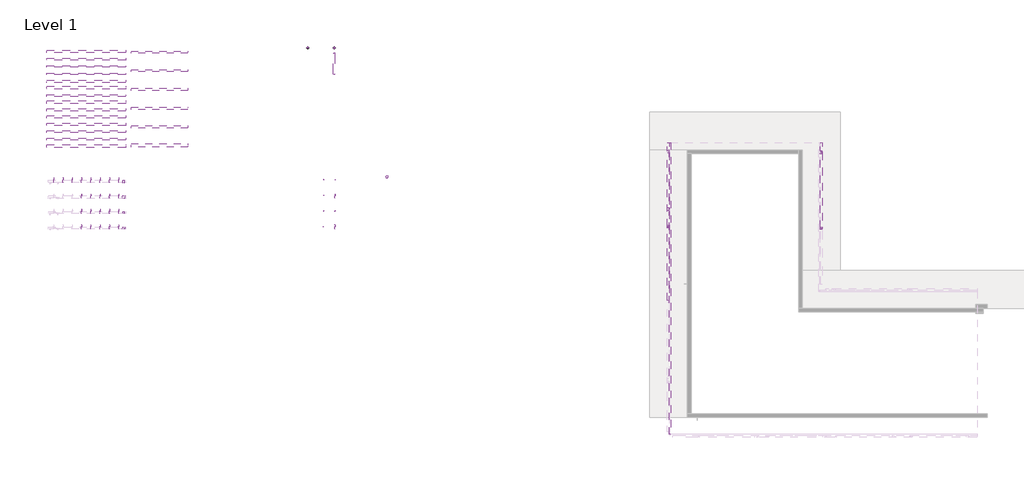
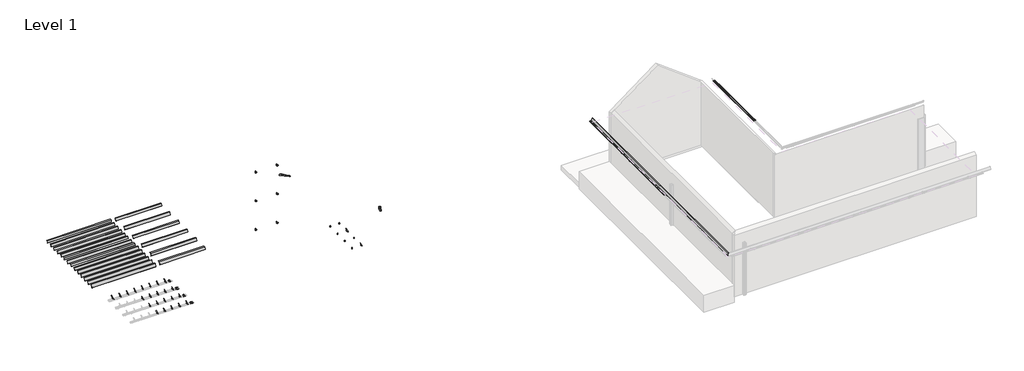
# One storey, part 2 of 2: 98 proxies.
"""IFC4 building model written with IfcOpenShell, lengths in millimetres."""

from ifc_helpers import new_model, si_unit, origin, place, context, project, spatial, transform, mapped, element, save
from components import generic_models_d0b2a56a, alignment_bracket_76c64be8, b_205_cd1249d6, b_205_a_120mm_6110ca3e, b_205_a_140mm_1e984a72, b_205_a_150mm_b27aad1a, b_205_a_160mm_fea3069e, b_205_a_160mm_67778573, b_220_5980a5c1, b_220_a_120mm_c45b3949, b_220_a_160mm_a982867b, b_236_e60926e6, b_236_a_120mm_6d98eb93, b_236_a_160mm_9b05f503, b_247_9f91e7f2, b_247_a_170mm_14fe877a, b_250_ef0d3f13, b_250_a_170mm_6450933a, b_250_a_180mm_6712f201, b_250_a_200mm_5dbeaa59, b_290_bcbdf5cb, b_290_a_200mm_1fde77d4, n85_7e013074, reinforced_downpipe_shoe_404acd6b, spacer_n70_b585c063, spacer_n85_8d13b293, t100_66401546, t100_925c021a, t100_1b8f7a4c, t100_445f57c7, t100_e39aad89, t100_9e3d697e, t100_2323cbb2, t120_630998e2, t120_09be152c, t125_4bbe78e1, t125_0be07f3f, t150_e18a62fa, t150_54225c01

model = new_model("IFC4")

# Units and contexts
model_context = context("Model", 3, world=origin())
ifc_project = project(units=[si_unit("LENGTHUNIT", "METRE", prefix="MILLI")], contexts=[model_context])

# Site, building, storey
site = spatial("IfcSite", under=ifc_project)
building = spatial("IfcBuilding", under=site)
storey = spatial("IfcBuildingStorey", under=building, Name="Level 1", Elevation=0.0)

# Proxies
placement = place(None, origin())
generic_models_shape = generic_models_d0b2a56a(model_context)
element("IfcBuildingElementProxy", 1, Name="GROVIK_Flashing_Eaves : B-205 A 160mm 38°", ObjectType="GROVIK_Flashing_Eaves : B-205 A 160mm 38°", at=placement, inside=storey, context=model_context, shape_type="MappedRepresentation", body=[
    mapped(generic_models_shape, transform((-1470.8188166, 8941.906927, 4000.0), x_axis=(1.0, 0.0, 0.0), y_axis=(0.0, 1.0, 0.0), z_axis=(0.0, 0.0, 1.0))),
])
alignment_bracket_shape = alignment_bracket_76c64be8(model_context)
element("IfcBuildingElementProxy", 2, Name="GROVIK_Gutter_Alignment bracket : Alignment bracket", ObjectType="GROVIK_Gutter_Alignment bracket : Alignment bracket", at=placement, inside=storey, context=model_context, shape_type="MappedRepresentation", body=[
    mapped(alignment_bracket_shape, transform((13217.1811834, 3688.5684654, 3955.4), x_axis=(1.0, 0.0, 0.0), y_axis=(0.0, 1.0, 0.0), z_axis=(0.0, 0.0, 1.0))),
])
element("IfcBuildingElementProxy", 3, Name="GROVIK_Gutter_Alignment bracket : Alignment bracket", ObjectType="GROVIK_Gutter_Alignment bracket : Alignment bracket", at=placement, inside=storey, context=model_context, shape_type="MappedRepresentation", body=[
    mapped(alignment_bracket_shape, transform((13817.1811834, 3688.5684654, 3955.4), x_axis=(1.0, 0.0, 0.0), y_axis=(0.0, 1.0, 0.0), z_axis=(0.0, 0.0, 1.0))),
])
element("IfcBuildingElementProxy", 4, Name="GROVIK_Gutter_Alignment bracket : Alignment bracket", ObjectType="GROVIK_Gutter_Alignment bracket : Alignment bracket", at=placement, inside=storey, context=model_context, shape_type="MappedRepresentation", body=[
    mapped(alignment_bracket_shape, transform((1860.5176207, 1193.8684654, 3917.3841307), x_axis=(0.9999500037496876, 0.0, -0.00999950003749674), y_axis=(0.0, 1.0, 0.0), z_axis=(0.00999950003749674, 0.0, 0.9999500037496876))),
])
element("IfcBuildingElementProxy", 5, Name="GROVIK_Gutter_Alignment bracket : Alignment bracket", ObjectType="GROVIK_Gutter_Alignment bracket : Alignment bracket", at=placement, inside=storey, context=model_context, shape_type="MappedRepresentation", body=[
    mapped(alignment_bracket_shape, transform((1368.5422188, 1193.8684654, 3922.3038847), x_axis=(0.9999500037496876, 0.0, -0.00999950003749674), y_axis=(0.0, 1.0, 0.0), z_axis=(0.00999950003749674, 0.0, 0.9999500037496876))),
])
element("IfcBuildingElementProxy", 6, Name="GROVIK_Gutter_Alignment bracket : Alignment bracket", ObjectType="GROVIK_Gutter_Alignment bracket : Alignment bracket", at=placement, inside=storey, context=model_context, shape_type="MappedRepresentation", body=[
    mapped(alignment_bracket_shape, transform((876.566817, 1193.8684654, 3927.2236387), x_axis=(0.9999500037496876, 0.0, -0.00999950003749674), y_axis=(0.0, 1.0, 0.0), z_axis=(0.00999950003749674, 0.0, 0.9999500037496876))),
])
element("IfcBuildingElementProxy", 7, Name="GROVIK_Gutter_Alignment bracket : Alignment bracket", ObjectType="GROVIK_Gutter_Alignment bracket : Alignment bracket", at=placement, inside=storey, context=model_context, shape_type="MappedRepresentation", body=[
    mapped(alignment_bracket_shape, transform((2352.4930225, 1193.8684654, 3912.4643767), x_axis=(0.9999500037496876, 0.0, -0.00999950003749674), y_axis=(0.0, 1.0, 0.0), z_axis=(0.00999950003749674, 0.0, 0.9999500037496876))),
])
element("IfcBuildingElementProxy", 8, Name="GROVIK_Gutter_Alignment bracket : Alignment bracket", ObjectType="GROVIK_Gutter_Alignment bracket : Alignment bracket", at=placement, inside=storey, context=model_context, shape_type="MappedRepresentation", body=[
    mapped(alignment_bracket_shape, transform((384.5914151, 1193.8684654, 3932.1433927), x_axis=(0.9999500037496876, 0.0, -0.00999950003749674), y_axis=(0.0, 1.0, 0.0), z_axis=(0.00999950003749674, 0.0, 0.9999500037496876))),
])
element("IfcBuildingElementProxy", 9, Name="GROVIK_Gutter_Alignment bracket : Alignment bracket", ObjectType="GROVIK_Gutter_Alignment bracket : Alignment bracket", at=placement, inside=storey, context=model_context, shape_type="MappedRepresentation", body=[
    mapped(alignment_bracket_shape, transform((13217.1811834, 1193.8684654, 3949.9), x_axis=(1.0, 0.0, 0.0), y_axis=(0.0, 1.0, 0.0), z_axis=(0.0, 0.0, 1.0))),
])
element("IfcBuildingElementProxy", 10, Name="GROVIK_Gutter_Alignment bracket : Alignment bracket", ObjectType="GROVIK_Gutter_Alignment bracket : Alignment bracket", at=placement, inside=storey, context=model_context, shape_type="MappedRepresentation", body=[
    mapped(alignment_bracket_shape, transform((13217.1811834, 2020.3184654, 3955.4), x_axis=(1.0, 0.0, 0.0), y_axis=(0.0, 1.0, 0.0), z_axis=(0.0, 0.0, 1.0))),
])
element("IfcBuildingElementProxy", 11, Name="GROVIK_Gutter_Alignment bracket : Alignment bracket", ObjectType="GROVIK_Gutter_Alignment bracket : Alignment bracket", at=placement, inside=storey, context=model_context, shape_type="MappedRepresentation", body=[
    mapped(alignment_bracket_shape, transform((13817.1811834, 1193.8684654, 3949.9), x_axis=(1.0, 0.0, 0.0), y_axis=(0.0, 1.0, 0.0), z_axis=(0.0, 0.0, 1.0))),
])
element("IfcBuildingElementProxy", 12, Name="GROVIK_Gutter_Alignment bracket : Alignment bracket", ObjectType="GROVIK_Gutter_Alignment bracket : Alignment bracket", at=placement, inside=storey, context=model_context, shape_type="MappedRepresentation", body=[
    mapped(alignment_bracket_shape, transform((13817.1811834, 2020.3184654, 3955.4), x_axis=(1.0, 0.0, 0.0), y_axis=(0.0, 1.0, 0.0), z_axis=(0.0, 0.0, 1.0))),
])
element("IfcBuildingElementProxy", 13, Name="GROVIK_Gutter_Alignment bracket : Alignment bracket", ObjectType="GROVIK_Gutter_Alignment bracket : Alignment bracket", at=placement, inside=storey, context=model_context, shape_type="MappedRepresentation", body=[
    mapped(alignment_bracket_shape, transform((13217.1811834, 2852.8184654, 3946.4), x_axis=(1.0, 0.0, 0.0), y_axis=(0.0, 1.0, 0.0), z_axis=(0.0, 0.0, 1.0))),
])
element("IfcBuildingElementProxy", 14, Name="GROVIK_Gutter_Alignment bracket : Alignment bracket", ObjectType="GROVIK_Gutter_Alignment bracket : Alignment bracket", at=placement, inside=storey, context=model_context, shape_type="MappedRepresentation", body=[
    mapped(alignment_bracket_shape, transform((13817.1811834, 2852.8184654, 3946.4), x_axis=(1.0, 0.0, 0.0), y_axis=(0.0, 1.0, 0.0), z_axis=(0.0, 0.0, 1.0))),
])
element("IfcBuildingElementProxy", 15, Name="GROVIK_Gutter_Alignment bracket : Alignment bracket", ObjectType="GROVIK_Gutter_Alignment bracket : Alignment bracket", at=placement, inside=storey, context=model_context, shape_type="MappedRepresentation", body=[
    mapped(alignment_bracket_shape, transform((1860.4826224, 2852.8184654, 3913.8843057), x_axis=(0.9999500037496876, 0.0, -0.009999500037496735), y_axis=(0.0, 1.0, 0.0), z_axis=(0.009999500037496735, 0.0, 0.9999500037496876))),
])
element("IfcBuildingElementProxy", 16, Name="GROVIK_Gutter_Alignment bracket : Alignment bracket", ObjectType="GROVIK_Gutter_Alignment bracket : Alignment bracket", at=placement, inside=storey, context=model_context, shape_type="MappedRepresentation", body=[
    mapped(alignment_bracket_shape, transform((2352.5480198, 3688.5684654, 3917.9641017), x_axis=(0.9999500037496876, 0.0, -0.009999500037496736), y_axis=(0.0, 1.0, 0.0), z_axis=(0.009999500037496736, 0.0, 0.9999500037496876))),
])
element("IfcBuildingElementProxy", 17, Name="GROVIK_Gutter_Alignment bracket : Alignment bracket", ObjectType="GROVIK_Gutter_Alignment bracket : Alignment bracket", at=placement, inside=storey, context=model_context, shape_type="MappedRepresentation", body=[
    mapped(alignment_bracket_shape, transform((384.6464124, 3688.5684654, 3937.6431178), x_axis=(0.9999500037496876, 0.0, -0.009999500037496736), y_axis=(0.0, 1.0, 0.0), z_axis=(0.009999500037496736, 0.0, 0.9999500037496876))),
])
element("IfcBuildingElementProxy", 18, Name="GROVIK_Gutter_Alignment bracket : Alignment bracket", ObjectType="GROVIK_Gutter_Alignment bracket : Alignment bracket", at=placement, inside=storey, context=model_context, shape_type="MappedRepresentation", body=[
    mapped(alignment_bracket_shape, transform((-107.3289895, 3688.5684654, 3942.5628718), x_axis=(0.9999500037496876, 0.0, -0.009999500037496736), y_axis=(0.0, 1.0, 0.0), z_axis=(0.009999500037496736, 0.0, 0.9999500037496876))),
])
element("IfcBuildingElementProxy", 19, Name="GROVIK_Gutter_Alignment bracket : Alignment bracket", ObjectType="GROVIK_Gutter_Alignment bracket : Alignment bracket", at=placement, inside=storey, context=model_context, shape_type="MappedRepresentation", body=[
    mapped(alignment_bracket_shape, transform((-599.3043913, 3688.5684654, 3947.4826258), x_axis=(0.9999500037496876, 0.0, -0.009999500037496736), y_axis=(0.0, 1.0, 0.0), z_axis=(0.009999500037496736, 0.0, 0.9999500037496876))),
])
element("IfcBuildingElementProxy", 20, Name="GROVIK_Gutter_Alignment bracket : Alignment bracket", ObjectType="GROVIK_Gutter_Alignment bracket : Alignment bracket", at=placement, inside=storey, context=model_context, shape_type="MappedRepresentation", body=[
    mapped(alignment_bracket_shape, transform((-1091.2797931, 3688.5684654, 3952.4023798), x_axis=(0.9999500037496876, 0.0, -0.009999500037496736), y_axis=(0.0, 1.0, 0.0), z_axis=(0.009999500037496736, 0.0, 0.9999500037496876))),
])
element("IfcBuildingElementProxy", 21, Name="GROVIK_Gutter_Alignment bracket : Alignment bracket", ObjectType="GROVIK_Gutter_Alignment bracket : Alignment bracket", at=placement, inside=storey, context=model_context, shape_type="MappedRepresentation", body=[
    mapped(alignment_bracket_shape, transform((1860.5726179, 3688.5684654, 3922.8838557), x_axis=(0.9999500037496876, 0.0, -0.009999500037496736), y_axis=(0.0, 1.0, 0.0), z_axis=(0.009999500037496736, 0.0, 0.9999500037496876))),
])
element("IfcBuildingElementProxy", 22, Name="GROVIK_Gutter_Alignment bracket : Alignment bracket", ObjectType="GROVIK_Gutter_Alignment bracket : Alignment bracket", at=placement, inside=storey, context=model_context, shape_type="MappedRepresentation", body=[
    mapped(alignment_bracket_shape, transform((1368.5972161, 3688.5684654, 3927.8036097), x_axis=(0.9999500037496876, 0.0, -0.009999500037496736), y_axis=(0.0, 1.0, 0.0), z_axis=(0.009999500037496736, 0.0, 0.9999500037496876))),
])
element("IfcBuildingElementProxy", 23, Name="GROVIK_Gutter_Alignment bracket : Alignment bracket", ObjectType="GROVIK_Gutter_Alignment bracket : Alignment bracket", at=placement, inside=storey, context=model_context, shape_type="MappedRepresentation", body=[
    mapped(alignment_bracket_shape, transform((876.6218142, 3688.5684654, 3932.7233637), x_axis=(0.9999500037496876, 0.0, -0.009999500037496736), y_axis=(0.0, 1.0, 0.0), z_axis=(0.009999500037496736, 0.0, 0.9999500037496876))),
])
element("IfcBuildingElementProxy", 24, Name="GROVIK_Gutter_Alignment bracket : Alignment bracket", ObjectType="GROVIK_Gutter_Alignment bracket : Alignment bracket", at=placement, inside=storey, context=model_context, shape_type="MappedRepresentation", body=[
    mapped(alignment_bracket_shape, transform((2352.5480198, 2020.3184654, 3917.9641017), x_axis=(0.9999500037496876, 0.0, -0.009999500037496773), y_axis=(0.0, 1.0, 0.0), z_axis=(0.009999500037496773, 0.0, 0.9999500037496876))),
])
element("IfcBuildingElementProxy", 25, Name="GROVIK_Gutter_Alignment bracket : Alignment bracket", ObjectType="GROVIK_Gutter_Alignment bracket : Alignment bracket", at=placement, inside=storey, context=model_context, shape_type="MappedRepresentation", body=[
    mapped(alignment_bracket_shape, transform((1860.5726179, 2020.3184654, 3922.8838557), x_axis=(0.9999500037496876, 0.0, -0.009999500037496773), y_axis=(0.0, 1.0, 0.0), z_axis=(0.009999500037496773, 0.0, 0.9999500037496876))),
])
element("IfcBuildingElementProxy", 26, Name="GROVIK_Gutter_Alignment bracket : Alignment bracket", ObjectType="GROVIK_Gutter_Alignment bracket : Alignment bracket", at=placement, inside=storey, context=model_context, shape_type="MappedRepresentation", body=[
    mapped(alignment_bracket_shape, transform((1368.5972161, 2020.3184654, 3927.8036097), x_axis=(0.9999500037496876, 0.0, -0.009999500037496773), y_axis=(0.0, 1.0, 0.0), z_axis=(0.009999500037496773, 0.0, 0.9999500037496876))),
])
element("IfcBuildingElementProxy", 27, Name="GROVIK_Gutter_Alignment bracket : Alignment bracket", ObjectType="GROVIK_Gutter_Alignment bracket : Alignment bracket", at=placement, inside=storey, context=model_context, shape_type="MappedRepresentation", body=[
    mapped(alignment_bracket_shape, transform((876.6218142, 2020.3184654, 3932.7233637), x_axis=(0.9999500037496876, 0.0, -0.009999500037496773), y_axis=(0.0, 1.0, 0.0), z_axis=(0.009999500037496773, 0.0, 0.9999500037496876))),
])
element("IfcBuildingElementProxy", 28, Name="GROVIK_Gutter_Alignment bracket : Alignment bracket", ObjectType="GROVIK_Gutter_Alignment bracket : Alignment bracket", at=placement, inside=storey, context=model_context, shape_type="MappedRepresentation", body=[
    mapped(alignment_bracket_shape, transform((384.6464124, 2020.3184654, 3937.6431178), x_axis=(0.9999500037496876, 0.0, -0.009999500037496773), y_axis=(0.0, 1.0, 0.0), z_axis=(0.009999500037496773, 0.0, 0.9999500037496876))),
])
element("IfcBuildingElementProxy", 29, Name="GROVIK_Gutter_Alignment bracket : Alignment bracket", ObjectType="GROVIK_Gutter_Alignment bracket : Alignment bracket", at=placement, inside=storey, context=model_context, shape_type="MappedRepresentation", body=[
    mapped(alignment_bracket_shape, transform((1368.5072206, 2852.8184654, 3918.8040597), x_axis=(0.9999500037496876, 0.0, -0.009999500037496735), y_axis=(0.0, 1.0, 0.0), z_axis=(0.009999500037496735, 0.0, 0.9999500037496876))),
])
element("IfcBuildingElementProxy", 30, Name="GROVIK_Gutter_Alignment bracket : Alignment bracket", ObjectType="GROVIK_Gutter_Alignment bracket : Alignment bracket", at=placement, inside=storey, context=model_context, shape_type="MappedRepresentation", body=[
    mapped(alignment_bracket_shape, transform((876.5318187, 2852.8184654, 3923.7238137), x_axis=(0.9999500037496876, 0.0, -0.009999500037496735), y_axis=(0.0, 1.0, 0.0), z_axis=(0.009999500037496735, 0.0, 0.9999500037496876))),
])
element("IfcBuildingElementProxy", 31, Name="GROVIK_Gutter_Alignment bracket : Alignment bracket", ObjectType="GROVIK_Gutter_Alignment bracket : Alignment bracket", at=placement, inside=storey, context=model_context, shape_type="MappedRepresentation", body=[
    mapped(alignment_bracket_shape, transform((2352.4580243, 2852.8184654, 3908.9645517), x_axis=(0.9999500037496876, 0.0, -0.009999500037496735), y_axis=(0.0, 1.0, 0.0), z_axis=(0.009999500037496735, 0.0, 0.9999500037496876))),
])
element("IfcBuildingElementProxy", 32, Name="GROVIK_Gutter_Alignment bracket : Alignment bracket", ObjectType="GROVIK_Gutter_Alignment bracket : Alignment bracket", at=placement, inside=storey, context=model_context, shape_type="MappedRepresentation", body=[
    mapped(alignment_bracket_shape, transform((384.5564169, 2852.8184654, 3928.6435677), x_axis=(0.9999500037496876, 0.0, -0.009999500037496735), y_axis=(0.0, 1.0, 0.0), z_axis=(0.009999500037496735, 0.0, 0.9999500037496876))),
])
b_205_shape = b_205_cd1249d6(model_context)
element("IfcBuildingElementProxy", 33, Name="GROVIK_Flashing_Eaves_Custom : B-205", ObjectType="GROVIK_Flashing_Eaves_Custom : B-205", at=placement, inside=storey, context=model_context, shape_type="MappedRepresentation", body=[
    mapped(b_205_shape, transform((3013.0864872, 10480.3684654, 4000.0), x_axis=(1.0, 0.0, 0.0), y_axis=(0.0, 1.0, 0.0), z_axis=(0.0, 0.0, 1.0))),
])
b_205_a_120mm_shape = b_205_a_120mm_6110ca3e(model_context)
element("IfcBuildingElementProxy", 34, Name="GROVIK_Flashing_Eaves : B-205 A 120mm", ObjectType="GROVIK_Flashing_Eaves : B-205 A 120mm", at=placement, inside=storey, context=model_context, shape_type="MappedRepresentation", body=[
    mapped(b_205_a_120mm_shape, transform((-1470.8188166, 10480.3684654, 4000.0), x_axis=(1.0, 0.0, 0.0), y_axis=(0.0, 1.0, 0.0), z_axis=(0.0, 0.0, 1.0))),
])
b_205_a_140mm_shape = b_205_a_140mm_1e984a72(model_context)
element("IfcBuildingElementProxy", 35, Name="GROVIK_Flashing_Eaves : B-205 A 140mm", ObjectType="GROVIK_Flashing_Eaves : B-205 A 140mm", at=placement, inside=storey, context=model_context, shape_type="MappedRepresentation", body=[
    mapped(b_205_a_140mm_shape, transform((-1470.8188166, 10095.7530808, 4000.0), x_axis=(1.0, 0.0, 0.0), y_axis=(0.0, 1.0, 0.0), z_axis=(0.0, 0.0, 1.0))),
])
b_205_a_150mm_shape = b_205_a_150mm_b27aad1a(model_context)
element("IfcBuildingElementProxy", 36, Name="GROVIK_Flashing_Eaves : B-205 A 150mm", ObjectType="GROVIK_Flashing_Eaves : B-205 A 150mm", at=placement, inside=storey, context=model_context, shape_type="MappedRepresentation", body=[
    mapped(b_205_a_150mm_shape, transform((-1470.8188166, 9711.1376962, 4000.0), x_axis=(1.0, 0.0, 0.0), y_axis=(0.0, 1.0, 0.0), z_axis=(0.0, 0.0, 1.0))),
])
b_205_a_160mm_shape = b_205_a_160mm_fea3069e(model_context)
element("IfcBuildingElementProxy", 37, Name="GROVIK_Flashing_Eaves : B-205 A 160mm", ObjectType="GROVIK_Flashing_Eaves : B-205 A 160mm", at=placement, inside=storey, context=model_context, shape_type="MappedRepresentation", body=[
    mapped(b_205_a_160mm_shape, transform((-1470.8188166, 9326.5223116, 4000.0), x_axis=(1.0, 0.0, 0.0), y_axis=(0.0, 1.0, 0.0), z_axis=(0.0, 0.0, 1.0))),
])
b_205_a_160mm_2_shape = b_205_a_160mm_67778573(model_context)
element("IfcBuildingElementProxy", 38, Name="GROVIK_Flashing_Eaves : B-205 A 160mm", ObjectType="GROVIK_Flashing_Eaves : B-205 A 160mm", at=placement, inside=storey, context=model_context, shape_type="MappedRepresentation", body=[
    mapped(b_205_a_160mm_2_shape, transform((31585.785344, 5677.8655714, 3881.25), x_axis=(0.0, -1.0, 0.0), y_axis=(1.0, 0.0, 0.0), z_axis=(0.0, 0.0, 1.0))),
])
b_220_shape = b_220_5980a5c1(model_context)
element("IfcBuildingElementProxy", 39, Name="GROVIK_Flashing_Eaves_Custom : B-220", ObjectType="GROVIK_Flashing_Eaves_Custom : B-220", at=placement, inside=storey, context=model_context, shape_type="MappedRepresentation", body=[
    mapped(b_220_shape, transform((3013.0864872, 9480.3684654, 4000.0), x_axis=(1.0, 0.0, 0.0), y_axis=(0.0, 1.0, 0.0), z_axis=(0.0, 0.0, 1.0))),
])
b_220_a_120mm_shape = b_220_a_120mm_c45b3949(model_context)
element("IfcBuildingElementProxy", 40, Name="GROVIK_Flashing_Eaves : B-220 A 120mm", ObjectType="GROVIK_Flashing_Eaves : B-220 A 120mm", at=placement, inside=storey, context=model_context, shape_type="MappedRepresentation", body=[
    mapped(b_220_a_120mm_shape, transform((-1470.8188166, 8557.2915424, 4000.0), x_axis=(1.0, 0.0, 0.0), y_axis=(0.0, 1.0, 0.0), z_axis=(0.0, 0.0, 1.0))),
])
b_220_a_160mm_shape = b_220_a_160mm_a982867b(model_context)
element("IfcBuildingElementProxy", 41, Name="GROVIK_Flashing_Eaves : B-220 A 160mm", ObjectType="GROVIK_Flashing_Eaves : B-220 A 160mm", at=placement, inside=storey, context=model_context, shape_type="MappedRepresentation", body=[
    mapped(b_220_a_160mm_shape, transform((-1470.8188166, 8172.6761577, 4000.0), x_axis=(1.0, 0.0, 0.0), y_axis=(0.0, 1.0, 0.0), z_axis=(0.0, 0.0, 1.0))),
])
b_236_shape = b_236_e60926e6(model_context)
element("IfcBuildingElementProxy", 42, Name="GROVIK_Flashing_Eaves_Custom : B-236", ObjectType="GROVIK_Flashing_Eaves_Custom : B-236", at=placement, inside=storey, context=model_context, shape_type="MappedRepresentation", body=[
    mapped(b_236_shape, transform((3013.0864872, 8480.3684654, 4000.0), x_axis=(1.0, 0.0, 0.0), y_axis=(0.0, 1.0, 0.0), z_axis=(0.0, 0.0, 1.0))),
])
b_236_a_120mm_shape = b_236_a_120mm_6d98eb93(model_context)
element("IfcBuildingElementProxy", 43, Name="GROVIK_Flashing_Eaves : B-236 A 120mm", ObjectType="GROVIK_Flashing_Eaves : B-236 A 120mm", at=placement, inside=storey, context=model_context, shape_type="MappedRepresentation", body=[
    mapped(b_236_a_120mm_shape, transform((-1470.8188166, 7788.0607731, 4000.0), x_axis=(1.0, 0.0, 0.0), y_axis=(0.0, 1.0, 0.0), z_axis=(0.0, 0.0, 1.0))),
])
b_236_a_160mm_shape = b_236_a_160mm_9b05f503(model_context)
element("IfcBuildingElementProxy", 44, Name="GROVIK_Flashing_Eaves : B-236 A 160mm", ObjectType="GROVIK_Flashing_Eaves : B-236 A 160mm", at=placement, inside=storey, context=model_context, shape_type="MappedRepresentation", body=[
    mapped(b_236_a_160mm_shape, transform((-1470.8188166, 7403.4453885, 4000.0), x_axis=(1.0, 0.0, 0.0), y_axis=(0.0, 1.0, 0.0), z_axis=(0.0, 0.0, 1.0))),
])
b_247_shape = b_247_9f91e7f2(model_context)
element("IfcBuildingElementProxy", 45, Name="GROVIK_Flashing_Eaves_Custom : B-247", ObjectType="GROVIK_Flashing_Eaves_Custom : B-247", at=placement, inside=storey, context=model_context, shape_type="MappedRepresentation", body=[
    mapped(b_247_shape, transform((3013.0864872, 7480.3684654, 4000.0), x_axis=(1.0, 0.0, 0.0), y_axis=(0.0, 1.0, 0.0), z_axis=(0.0, 0.0, 1.0))),
])
b_247_a_170mm_shape = b_247_a_170mm_14fe877a(model_context)
element("IfcBuildingElementProxy", 46, Name="GROVIK_Flashing_Eaves : B-247 A 170mm", ObjectType="GROVIK_Flashing_Eaves : B-247 A 170mm", at=placement, inside=storey, context=model_context, shape_type="MappedRepresentation", body=[
    mapped(b_247_a_170mm_shape, transform((-1470.8188166, 7018.8300039, 4000.0), x_axis=(1.0, 0.0, 0.0), y_axis=(0.0, 1.0, 0.0), z_axis=(0.0, 0.0, 1.0))),
])
b_250_shape = b_250_ef0d3f13(model_context)
element("IfcBuildingElementProxy", 47, Name="GROVIK_Flashing_Eaves_Custom : B-250", ObjectType="GROVIK_Flashing_Eaves_Custom : B-250", at=placement, inside=storey, context=model_context, shape_type="MappedRepresentation", body=[
    mapped(b_250_shape, transform((3013.0864872, 6480.3684654, 4000.0), x_axis=(1.0, 0.0, 0.0), y_axis=(0.0, 1.0, 0.0), z_axis=(0.0, 0.0, 1.0))),
])
b_250_a_170mm_shape = b_250_a_170mm_6450933a(model_context)
element("IfcBuildingElementProxy", 48, Name="GROVIK_Flashing_Eaves : B-250 A 170mm", ObjectType="GROVIK_Flashing_Eaves : B-250 A 170mm", at=placement, inside=storey, context=model_context, shape_type="MappedRepresentation", body=[
    mapped(b_250_a_170mm_shape, transform((-1470.8188166, 6634.2146193, 4000.0), x_axis=(1.0, 0.0, 0.0), y_axis=(0.0, 1.0, 0.0), z_axis=(0.0, 0.0, 1.0))),
])
b_250_a_180mm_shape = b_250_a_180mm_6712f201(model_context)
element("IfcBuildingElementProxy", 49, Name="GROVIK_Flashing_Eaves : B-250 A 180mm", ObjectType="GROVIK_Flashing_Eaves : B-250 A 180mm", at=placement, inside=storey, context=model_context, shape_type="MappedRepresentation", body=[
    mapped(b_250_a_180mm_shape, transform((-1470.8188166, 6249.5992347, 4000.0), x_axis=(1.0, 0.0, 0.0), y_axis=(0.0, 1.0, 0.0), z_axis=(0.0, 0.0, 1.0))),
])
b_250_a_200mm_shape = b_250_a_200mm_5dbeaa59(model_context)
element("IfcBuildingElementProxy", 50, Name="GROVIK_Flashing_Eaves : B-250 A 200mm", ObjectType="GROVIK_Flashing_Eaves : B-250 A 200mm", at=placement, inside=storey, context=model_context, shape_type="MappedRepresentation", body=[
    mapped(b_250_a_200mm_shape, transform((-1470.8188166, 5864.9838501, 4000.0), x_axis=(1.0, 0.0, 0.0), y_axis=(0.0, 1.0, 0.0), z_axis=(0.0, 0.0, 1.0))),
])
b_290_shape = b_290_bcbdf5cb(model_context)
element("IfcBuildingElementProxy", 51, Name="GROVIK_Flashing_Eaves_Custom : B-290", ObjectType="GROVIK_Flashing_Eaves_Custom : B-290", at=placement, inside=storey, context=model_context, shape_type="MappedRepresentation", body=[
    mapped(b_290_shape, transform((3013.0864872, 5480.3684654, 4000.0), x_axis=(1.0, 0.0, 0.0), y_axis=(0.0, 1.0, 0.0), z_axis=(0.0, 0.0, 1.0))),
])
b_290_a_200mm_shape = b_290_a_200mm_1fde77d4(model_context)
element("IfcBuildingElementProxy", 52, Name="GROVIK_Flashing_Eaves : B-290 A 200mm", ObjectType="GROVIK_Flashing_Eaves : B-290 A 200mm", at=placement, inside=storey, context=model_context, shape_type="MappedRepresentation", body=[
    mapped(b_290_a_200mm_shape, transform((-1470.8188166, 5480.3684654, 4000.0), x_axis=(1.0, 0.0, 0.0), y_axis=(0.0, 1.0, 0.0), z_axis=(0.0, 0.0, 1.0))),
])
n85_shape = n85_7e013074(model_context)
element("IfcBuildingElementProxy", 53, Name="GROVIK_Downpipe_Straight_Sloped : N85", ObjectType="GROVIK_Downpipe_Straight_Sloped : N85", at=placement, inside=storey, context=model_context, shape_type="MappedRepresentation", body=[
    mapped(n85_shape, transform((13774.3717964, 9235.4175374, 4000.0), x_axis=(0.0, 1.0, 0.0), y_axis=(-1.0, 0.0, 0.0), z_axis=(0.0, 0.0, 1.0))),
])
reinforced_downpipe_shoe_shape = reinforced_downpipe_shoe_404acd6b(model_context)
element("IfcBuildingElementProxy", 54, Name="GROVIK_Special_Reinforced Downpipe_Shoe : Reinforced Downpipe Shoe", ObjectType="GROVIK_Special_Reinforced Downpipe_Shoe : Reinforced Downpipe Shoe", at=placement, inside=storey, context=model_context, shape_type="MappedRepresentation", body=[
    mapped(reinforced_downpipe_shoe_shape, transform((16574.3717964, 3864.6762118, 3994.0), x_axis=(0.0, -1.0, 0.0), y_axis=(1.0, 0.0, 0.0), z_axis=(0.0, 0.0, 1.0))),
])
spacer_n70_shape = spacer_n70_b585c063(model_context)
element("IfcBuildingElementProxy", 55, Name="GROVIK_Downpipe_Bracket : Spacer_N70", ObjectType="GROVIK_Downpipe_Bracket : Spacer_N70", at=placement, inside=storey, context=model_context, shape_type="MappedRepresentation", body=[
    mapped(spacer_n70_shape, transform((12374.3717964, 10687.1801801, -200.0), x_axis=(1.0, 0.0, 0.0), y_axis=(0.0, 1.0, 0.0), z_axis=(0.0, 0.0, 1.0))),
])
element("IfcBuildingElementProxy", 56, Name="GROVIK_Downpipe_Bracket : Spacer_N70", ObjectType="GROVIK_Downpipe_Bracket : Spacer_N70", at=placement, inside=storey, context=model_context, shape_type="MappedRepresentation", body=[
    mapped(spacer_n70_shape, transform((12374.3717964, 10687.1801801, 1800.0), x_axis=(1.0, 0.0, 0.0), y_axis=(0.0, 1.0, 0.0), z_axis=(0.0, 0.0, 1.0))),
])
element("IfcBuildingElementProxy", 57, Name="GROVIK_Downpipe_Bracket : Spacer_N70", ObjectType="GROVIK_Downpipe_Bracket : Spacer_N70", at=placement, inside=storey, context=model_context, shape_type="MappedRepresentation", body=[
    mapped(spacer_n70_shape, transform((12374.3717964, 10687.1801801, 3800.0), x_axis=(1.0, 0.0, 0.0), y_axis=(0.0, 1.0, 0.0), z_axis=(0.0, 0.0, 1.0))),
])
spacer_n85_shape = spacer_n85_8d13b293(model_context)
element("IfcBuildingElementProxy", 58, Name="GROVIK_Downpipe_Bracket : Spacer_N85", ObjectType="GROVIK_Downpipe_Bracket : Spacer_N85", at=placement, inside=storey, context=model_context, shape_type="MappedRepresentation", body=[
    mapped(spacer_n85_shape, transform((13774.3717964, 10687.1801801, -200.0), x_axis=(1.0, 0.0, 0.0), y_axis=(0.0, 1.0, 0.0), z_axis=(0.0, 0.0, 1.0))),
])
element("IfcBuildingElementProxy", 59, Name="GROVIK_Downpipe_Bracket : Spacer_N85", ObjectType="GROVIK_Downpipe_Bracket : Spacer_N85", at=placement, inside=storey, context=model_context, shape_type="MappedRepresentation", body=[
    mapped(spacer_n85_shape, transform((13774.3717964, 10687.1801801, 1800.0), x_axis=(1.0, 0.0, 0.0), y_axis=(0.0, 1.0, 0.0), z_axis=(0.0, 0.0, 1.0))),
])
element("IfcBuildingElementProxy", 60, Name="GROVIK_Downpipe_Bracket : Spacer_N85", ObjectType="GROVIK_Downpipe_Bracket : Spacer_N85", at=placement, inside=storey, context=model_context, shape_type="MappedRepresentation", body=[
    mapped(spacer_n85_shape, transform((13774.3717964, 10687.1801801, 3800.0), x_axis=(1.0, 0.0, 0.0), y_axis=(0.0, 1.0, 0.0), z_axis=(0.0, 0.0, 1.0))),
])
t100_shape = t100_66401546(model_context)
element("IfcBuildingElementProxy", 61, Name="GROVIK_Gutter_Support rod : T100", ObjectType="GROVIK_Gutter_Support rod : T100", at=placement, inside=storey, context=model_context, shape_type="MappedRepresentation", body=[
    mapped(t100_shape, transform((1861.0185956, 1182.3684654, 3967.4816259), x_axis=(0.9999500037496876, 0.0, -0.00999950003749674), y_axis=(0.0, 1.0, 0.0), z_axis=(0.00999950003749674, 0.0, 0.9999500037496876))),
])
element("IfcBuildingElementProxy", 62, Name="GROVIK_Gutter_Support rod : T100", ObjectType="GROVIK_Gutter_Support rod : T100", at=placement, inside=storey, context=model_context, shape_type="MappedRepresentation", body=[
    mapped(t100_shape, transform((1369.0431938, 1182.3684654, 3972.4013799), x_axis=(0.9999500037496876, 0.0, -0.00999950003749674), y_axis=(0.0, 1.0, 0.0), z_axis=(0.00999950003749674, 0.0, 0.9999500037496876))),
])
element("IfcBuildingElementProxy", 63, Name="GROVIK_Gutter_Support rod : T100", ObjectType="GROVIK_Gutter_Support rod : T100", at=placement, inside=storey, context=model_context, shape_type="MappedRepresentation", body=[
    mapped(t100_shape, transform((877.0677919, 1182.3684654, 3977.3211339), x_axis=(0.9999500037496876, 0.0, -0.00999950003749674), y_axis=(0.0, 1.0, 0.0), z_axis=(0.00999950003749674, 0.0, 0.9999500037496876))),
])
element("IfcBuildingElementProxy", 64, Name="GROVIK_Gutter_Support rod : T100", ObjectType="GROVIK_Gutter_Support rod : T100", at=placement, inside=storey, context=model_context, shape_type="MappedRepresentation", body=[
    mapped(t100_shape, transform((2352.9939975, 1182.3684654, 3962.5618719), x_axis=(0.9999500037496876, 0.0, -0.00999950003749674), y_axis=(0.0, 1.0, 0.0), z_axis=(0.00999950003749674, 0.0, 0.9999500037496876))),
])
element("IfcBuildingElementProxy", 65, Name="GROVIK_Gutter_Support rod : T100", ObjectType="GROVIK_Gutter_Support rod : T100", at=placement, inside=storey, context=model_context, shape_type="MappedRepresentation", body=[
    mapped(t100_shape, transform((385.0923901, 1182.3684654, 3982.2408879), x_axis=(0.9999500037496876, 0.0, -0.00999950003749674), y_axis=(0.0, 1.0, 0.0), z_axis=(0.00999950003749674, 0.0, 0.9999500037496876))),
])
element("IfcBuildingElementProxy", 66, Name="GROVIK_Gutter_Support rod : T100", ObjectType="GROVIK_Gutter_Support rod : T100", at=placement, inside=storey, context=model_context, shape_type="MappedRepresentation", body=[
    mapped(t100_shape, transform((13817.1811834, 1182.3684654, 4000.0), x_axis=(1.0, 0.0, 0.0), y_axis=(0.0, 1.0, 0.0), z_axis=(0.0, 0.0, 1.0))),
])
t100_2_shape = t100_925c021a(model_context)
element("IfcBuildingElementProxy", 67, Name="GROVIK_Gutter_Joint : T100", ObjectType="GROVIK_Gutter_Joint : T100", at=placement, inside=storey, context=model_context, shape_type="MappedRepresentation", body=[
    mapped(t100_2_shape, transform((2608.9811984, 1182.3684654, 3960.0019999), x_axis=(0.9999500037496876, 0.0, -0.00999950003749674), y_axis=(0.0, 1.0, 0.0), z_axis=(0.00999950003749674, 0.0, 0.9999500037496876))),
])
element("IfcBuildingElementProxy", 68, Name="GROVIK_Gutter_Joint : T100", ObjectType="GROVIK_Gutter_Joint : T100", at=placement, inside=storey, context=model_context, shape_type="MappedRepresentation", body=[
    mapped(t100_2_shape, transform((31535.785344, 2134.4747884, 3730.2852879), x_axis=(0.0, -0.999999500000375, 0.0009999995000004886), y_axis=(1.0, 0.0, 0.0), z_axis=(0.0, 0.0009999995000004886, 0.999999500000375))),
])
element("IfcBuildingElementProxy", 69, Name="GROVIK_Gutter_Joint : T100", ObjectType="GROVIK_Gutter_Joint : T100", at=placement, inside=storey, context=model_context, shape_type="MappedRepresentation", body=[
    mapped(t100_2_shape, transform((31535.785344, 1214.7626775, 3731.25), x_axis=(0.0, -1.0, 0.0), y_axis=(1.0, 0.0, 0.0), z_axis=(0.0, 0.0, 1.0))),
])
element("IfcBuildingElementProxy", 70, Name="GROVIK_Gutter_Joint : T100", ObjectType="GROVIK_Gutter_Joint : T100", at=placement, inside=storey, context=model_context, shape_type="MappedRepresentation", body=[
    mapped(t100_2_shape, transform((39535.785344, 1119.0120682, 3731.25), x_axis=(0.0, 1.0, 0.0), y_axis=(-1.0, 0.0, 0.0), z_axis=(0.0, 0.0, 1.0))),
])
element("IfcBuildingElementProxy", 71, Name="GROVIK_Gutter_Joint : T100", ObjectType="GROVIK_Gutter_Joint : T100", at=placement, inside=storey, context=model_context, shape_type="MappedRepresentation", body=[
    mapped(t100_2_shape, transform((39535.785344, 5120.0100682, 3727.250002), x_axis=(0.0, 0.999999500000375, -0.0009999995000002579), y_axis=(-1.0, 0.0, 0.0), z_axis=(0.0, 0.0009999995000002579, 0.999999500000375))),
])
t100_3_shape = t100_1b8f7a4c(model_context)
element("IfcBuildingElementProxy", 72, Name="GROVIK_Gutter_Straight : T100", ObjectType="GROVIK_Gutter_Straight : T100", at=placement, inside=storey, context=model_context, shape_type="MappedRepresentation", body=[
    mapped(t100_3_shape, transform((31535.785344, 5677.8655714, 3727.7836817), x_axis=(0.0, -1.0, 0.0), y_axis=(1.0, 0.0, 0.0), z_axis=(0.0, 0.0, 1.0))),
])
t100_4_shape = t100_445f57c7(model_context)
element("IfcBuildingElementProxy", 73, Name="GROVIK_Gutter_Straight : T100", ObjectType="GROVIK_Gutter_Straight : T100", at=placement, inside=storey, context=model_context, shape_type="MappedRepresentation", body=[
    mapped(t100_4_shape, transform((31535.785344, 5179.4732884, 3727.2852894), x_axis=(0.0, -1.0, 0.0), y_axis=(1.0, 0.0, 0.0), z_axis=(0.0, 0.0, 1.0))),
])
t100_5_shape = t100_e39aad89(model_context)
element("IfcBuildingElementProxy", 74, Name="GROVIK_Gutter_Straight : T100", ObjectType="GROVIK_Gutter_Straight : T100", at=placement, inside=storey, context=model_context, shape_type="MappedRepresentation", body=[
    mapped(t100_5_shape, transform((31535.785344, 1214.7626775, 3731.25), x_axis=(0.0, -1.0, 0.0), y_axis=(1.0, 0.0, 0.0), z_axis=(0.0, 0.0, 1.0))),
])
t100_6_shape = t100_9e3d697e(model_context)
element("IfcBuildingElementProxy", 75, Name="GROVIK_Gutter_Straight : T100", ObjectType="GROVIK_Gutter_Straight : T100", at=placement, inside=storey, context=model_context, shape_type="MappedRepresentation", body=[
    mapped(t100_6_shape, transform((39535.785344, 1119.0120682, 3731.25), x_axis=(0.0, 1.0, 0.0), y_axis=(-1.0, 0.0, 0.0), z_axis=(0.0, 0.0, 1.0))),
])
t100_7_shape = t100_2323cbb2(model_context)
element("IfcBuildingElementProxy", 76, Name="GROVIK_Gutter_Straight : T100", ObjectType="GROVIK_Gutter_Straight : T100", at=placement, inside=storey, context=model_context, shape_type="MappedRepresentation", body=[
    mapped(t100_7_shape, transform((39535.785344, 5174.680858, 3727.1943312), x_axis=(0.0, 1.0, 0.0), y_axis=(-1.0, 0.0, 0.0), z_axis=(0.0, 0.0, 1.0))),
])
t120_shape = t120_630998e2(model_context)
element("IfcBuildingElementProxy", 77, Name="GROVIK_Gutter_Support rod : T120", ObjectType="GROVIK_Gutter_Support rod : T120", at=placement, inside=storey, context=model_context, shape_type="MappedRepresentation", body=[
    mapped(t120_shape, transform((2352.9939975, 2014.1184654, 3962.5618719), x_axis=(0.9999500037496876, 0.0, -0.009999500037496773), y_axis=(0.0, 1.0, 0.0), z_axis=(0.009999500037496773, 0.0, 0.9999500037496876))),
])
element("IfcBuildingElementProxy", 78, Name="GROVIK_Gutter_Support rod : T120", ObjectType="GROVIK_Gutter_Support rod : T120", at=placement, inside=storey, context=model_context, shape_type="MappedRepresentation", body=[
    mapped(t120_shape, transform((1861.0185956, 2014.1184654, 3967.4816259), x_axis=(0.9999500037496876, 0.0, -0.009999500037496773), y_axis=(0.0, 1.0, 0.0), z_axis=(0.009999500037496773, 0.0, 0.9999500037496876))),
])
element("IfcBuildingElementProxy", 79, Name="GROVIK_Gutter_Support rod : T120", ObjectType="GROVIK_Gutter_Support rod : T120", at=placement, inside=storey, context=model_context, shape_type="MappedRepresentation", body=[
    mapped(t120_shape, transform((1369.0431938, 2014.1184654, 3972.4013799), x_axis=(0.9999500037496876, 0.0, -0.009999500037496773), y_axis=(0.0, 1.0, 0.0), z_axis=(0.009999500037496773, 0.0, 0.9999500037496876))),
])
element("IfcBuildingElementProxy", 80, Name="GROVIK_Gutter_Support rod : T120", ObjectType="GROVIK_Gutter_Support rod : T120", at=placement, inside=storey, context=model_context, shape_type="MappedRepresentation", body=[
    mapped(t120_shape, transform((877.0677919, 2014.1184654, 3977.3211339), x_axis=(0.9999500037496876, 0.0, -0.009999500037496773), y_axis=(0.0, 1.0, 0.0), z_axis=(0.009999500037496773, 0.0, 0.9999500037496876))),
])
element("IfcBuildingElementProxy", 81, Name="GROVIK_Gutter_Support rod : T120", ObjectType="GROVIK_Gutter_Support rod : T120", at=placement, inside=storey, context=model_context, shape_type="MappedRepresentation", body=[
    mapped(t120_shape, transform((385.0923901, 2014.1184654, 3982.2408879), x_axis=(0.9999500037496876, 0.0, -0.009999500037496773), y_axis=(0.0, 1.0, 0.0), z_axis=(0.009999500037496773, 0.0, 0.9999500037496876))),
])
t120_2_shape = t120_09be152c(model_context)
element("IfcBuildingElementProxy", 82, Name="GROVIK_Gutter_Joint : T120", ObjectType="GROVIK_Gutter_Joint : T120", at=placement, inside=storey, context=model_context, shape_type="MappedRepresentation", body=[
    mapped(t120_2_shape, transform((2608.9811984, 2014.1184654, 3960.0019999), x_axis=(0.9999500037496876, 0.0, -0.009999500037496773), y_axis=(0.0, 1.0, 0.0), z_axis=(0.009999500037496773, 0.0, 0.9999500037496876))),
])
t125_shape = t125_4bbe78e1(model_context)
element("IfcBuildingElementProxy", 83, Name="GROVIK_Gutter_Support rod : T125", ObjectType="GROVIK_Gutter_Support rod : T125", at=placement, inside=storey, context=model_context, shape_type="MappedRepresentation", body=[
    mapped(t125_shape, transform((13817.1811834, 2843.6184654, 4000.0), x_axis=(1.0, 0.0, 0.0), y_axis=(0.0, 1.0, 0.0), z_axis=(0.0, 0.0, 1.0))),
])
element("IfcBuildingElementProxy", 84, Name="GROVIK_Gutter_Support rod : T125", ObjectType="GROVIK_Gutter_Support rod : T125", at=placement, inside=storey, context=model_context, shape_type="MappedRepresentation", body=[
    mapped(t125_shape, transform((1861.0185956, 2843.6184654, 3967.4816259), x_axis=(0.9999500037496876, 0.0, -0.009999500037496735), y_axis=(0.0, 1.0, 0.0), z_axis=(0.009999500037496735, 0.0, 0.9999500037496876))),
])
element("IfcBuildingElementProxy", 85, Name="GROVIK_Gutter_Support rod : T125", ObjectType="GROVIK_Gutter_Support rod : T125", at=placement, inside=storey, context=model_context, shape_type="MappedRepresentation", body=[
    mapped(t125_shape, transform((1369.0431938, 2843.6184654, 3972.4013799), x_axis=(0.9999500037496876, 0.0, -0.009999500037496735), y_axis=(0.0, 1.0, 0.0), z_axis=(0.009999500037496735, 0.0, 0.9999500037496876))),
])
element("IfcBuildingElementProxy", 86, Name="GROVIK_Gutter_Support rod : T125", ObjectType="GROVIK_Gutter_Support rod : T125", at=placement, inside=storey, context=model_context, shape_type="MappedRepresentation", body=[
    mapped(t125_shape, transform((877.0677919, 2843.6184654, 3977.3211339), x_axis=(0.9999500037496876, 0.0, -0.009999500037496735), y_axis=(0.0, 1.0, 0.0), z_axis=(0.009999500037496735, 0.0, 0.9999500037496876))),
])
element("IfcBuildingElementProxy", 87, Name="GROVIK_Gutter_Support rod : T125", ObjectType="GROVIK_Gutter_Support rod : T125", at=placement, inside=storey, context=model_context, shape_type="MappedRepresentation", body=[
    mapped(t125_shape, transform((2352.9939975, 2843.6184654, 3962.5618719), x_axis=(0.9999500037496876, 0.0, -0.009999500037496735), y_axis=(0.0, 1.0, 0.0), z_axis=(0.009999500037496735, 0.0, 0.9999500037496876))),
])
element("IfcBuildingElementProxy", 88, Name="GROVIK_Gutter_Support rod : T125", ObjectType="GROVIK_Gutter_Support rod : T125", at=placement, inside=storey, context=model_context, shape_type="MappedRepresentation", body=[
    mapped(t125_shape, transform((385.0923901, 2843.6184654, 3982.2408879), x_axis=(0.9999500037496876, 0.0, -0.009999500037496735), y_axis=(0.0, 1.0, 0.0), z_axis=(0.009999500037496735, 0.0, 0.9999500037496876))),
])
t125_2_shape = t125_0be07f3f(model_context)
element("IfcBuildingElementProxy", 89, Name="GROVIK_Gutter_Joint : T125", ObjectType="GROVIK_Gutter_Joint : T125", at=placement, inside=storey, context=model_context, shape_type="MappedRepresentation", body=[
    mapped(t125_2_shape, transform((2608.9811984, 2843.6184654, 3960.0019999), x_axis=(0.9999500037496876, 0.0, -0.009999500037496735), y_axis=(0.0, 1.0, 0.0), z_axis=(0.009999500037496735, 0.0, 0.9999500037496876))),
])
t150_shape = t150_e18a62fa(model_context)
element("IfcBuildingElementProxy", 90, Name="GROVIK_Gutter_Support rod : T150", ObjectType="GROVIK_Gutter_Support rod : T150", at=placement, inside=storey, context=model_context, shape_type="MappedRepresentation", body=[
    mapped(t150_shape, transform((2352.9939975, 3682.3684654, 3962.5618719), x_axis=(0.9999500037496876, 0.0, -0.009999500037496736), y_axis=(0.0, 1.0, 0.0), z_axis=(0.009999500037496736, 0.0, 0.9999500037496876))),
])
element("IfcBuildingElementProxy", 91, Name="GROVIK_Gutter_Support rod : T150", ObjectType="GROVIK_Gutter_Support rod : T150", at=placement, inside=storey, context=model_context, shape_type="MappedRepresentation", body=[
    mapped(t150_shape, transform((385.0923901, 3682.3684654, 3982.2408879), x_axis=(0.9999500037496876, 0.0, -0.009999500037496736), y_axis=(0.0, 1.0, 0.0), z_axis=(0.009999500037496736, 0.0, 0.9999500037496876))),
])
element("IfcBuildingElementProxy", 92, Name="GROVIK_Gutter_Support rod : T150", ObjectType="GROVIK_Gutter_Support rod : T150", at=placement, inside=storey, context=model_context, shape_type="MappedRepresentation", body=[
    mapped(t150_shape, transform((-106.8830118, 3682.3684654, 3987.160642), x_axis=(0.9999500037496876, 0.0, -0.009999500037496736), y_axis=(0.0, 1.0, 0.0), z_axis=(0.009999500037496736, 0.0, 0.9999500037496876))),
])
element("IfcBuildingElementProxy", 93, Name="GROVIK_Gutter_Support rod : T150", ObjectType="GROVIK_Gutter_Support rod : T150", at=placement, inside=storey, context=model_context, shape_type="MappedRepresentation", body=[
    mapped(t150_shape, transform((-598.8584136, 3682.3684654, 3992.080396), x_axis=(0.9999500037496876, 0.0, -0.009999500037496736), y_axis=(0.0, 1.0, 0.0), z_axis=(0.009999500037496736, 0.0, 0.9999500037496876))),
])
element("IfcBuildingElementProxy", 94, Name="GROVIK_Gutter_Support rod : T150", ObjectType="GROVIK_Gutter_Support rod : T150", at=placement, inside=storey, context=model_context, shape_type="MappedRepresentation", body=[
    mapped(t150_shape, transform((-1090.8338154, 3682.3684654, 3997.00015), x_axis=(0.9999500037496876, 0.0, -0.009999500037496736), y_axis=(0.0, 1.0, 0.0), z_axis=(0.009999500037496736, 0.0, 0.9999500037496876))),
])
element("IfcBuildingElementProxy", 95, Name="GROVIK_Gutter_Support rod : T150", ObjectType="GROVIK_Gutter_Support rod : T150", at=placement, inside=storey, context=model_context, shape_type="MappedRepresentation", body=[
    mapped(t150_shape, transform((1861.0185956, 3682.3684654, 3967.4816259), x_axis=(0.9999500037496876, 0.0, -0.009999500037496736), y_axis=(0.0, 1.0, 0.0), z_axis=(0.009999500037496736, 0.0, 0.9999500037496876))),
])
element("IfcBuildingElementProxy", 96, Name="GROVIK_Gutter_Support rod : T150", ObjectType="GROVIK_Gutter_Support rod : T150", at=placement, inside=storey, context=model_context, shape_type="MappedRepresentation", body=[
    mapped(t150_shape, transform((1369.0431938, 3682.3684654, 3972.4013799), x_axis=(0.9999500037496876, 0.0, -0.009999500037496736), y_axis=(0.0, 1.0, 0.0), z_axis=(0.009999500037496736, 0.0, 0.9999500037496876))),
])
element("IfcBuildingElementProxy", 97, Name="GROVIK_Gutter_Support rod : T150", ObjectType="GROVIK_Gutter_Support rod : T150", at=placement, inside=storey, context=model_context, shape_type="MappedRepresentation", body=[
    mapped(t150_shape, transform((877.0677919, 3682.3684654, 3977.3211339), x_axis=(0.9999500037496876, 0.0, -0.009999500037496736), y_axis=(0.0, 1.0, 0.0), z_axis=(0.009999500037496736, 0.0, 0.9999500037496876))),
])
t150_2_shape = t150_54225c01(model_context)
element("IfcBuildingElementProxy", 98, Name="GROVIK_Gutter_Joint : T150", ObjectType="GROVIK_Gutter_Joint : T150", at=placement, inside=storey, context=model_context, shape_type="MappedRepresentation", body=[
    mapped(t150_2_shape, transform((2608.9811984, 3682.3684654, 3960.0019999), x_axis=(0.9999500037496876, 0.0, -0.009999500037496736), y_axis=(0.0, 1.0, 0.0), z_axis=(0.009999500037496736, 0.0, 0.9999500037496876))),
])

save(model, "model.ifc")
